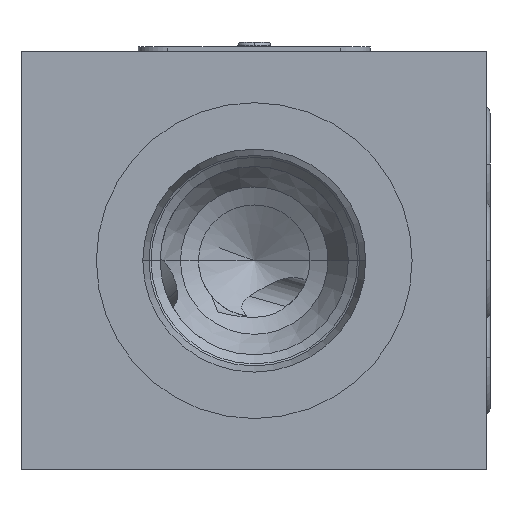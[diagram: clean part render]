
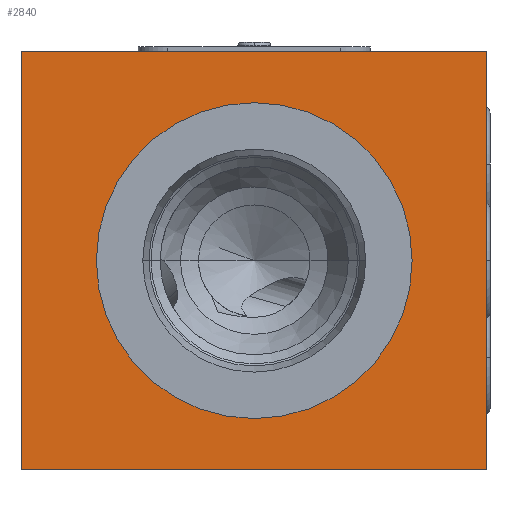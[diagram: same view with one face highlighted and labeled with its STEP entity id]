
A CAD part, left-side view. The second image highlights one B-rep face of the part: STEP entity #2840.
In plain terms, the highlighted planar face has unit normal (-1, 0, 0).
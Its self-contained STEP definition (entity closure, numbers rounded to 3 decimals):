
#55=DIRECTION('',(0.,0.,-1.));
#56=VECTOR('',#55,45.);
#57=CARTESIAN_POINT('',(0.,0.,0.));
#58=LINE('',#57,#56);
#62=DIRECTION('',(0.,1.,0.));
#63=VECTOR('',#62,50.);
#64=CARTESIAN_POINT('',(0.,0.,-45.));
#65=LINE('',#64,#63);
#69=DIRECTION('',(0.,0.,1.));
#70=VECTOR('',#69,45.);
#71=CARTESIAN_POINT('',(0.,50.,-45.));
#72=LINE('',#71,#70);
#76=DIRECTION('',(0.,-1.,0.));
#77=VECTOR('',#76,50.);
#78=CARTESIAN_POINT('',(0.,50.,0.));
#79=LINE('',#78,#77);
#83=CARTESIAN_POINT('',(0.,25.,-22.5));
#84=DIRECTION('',(1.,0.,0.));
#85=DIRECTION('',(0.,-1.,0.));
#86=AXIS2_PLACEMENT_3D('',#83,#84,#85);
#91=CARTESIAN_POINT('',(0.,25.,-22.5));
#92=DIRECTION('',(1.,0.,0.));
#93=DIRECTION('',(0.,1.,0.));
#94=AXIS2_PLACEMENT_3D('',#91,#92,#93);
#2550=CARTESIAN_POINT('',(0.,0.,0.));
#2551=CARTESIAN_POINT('',(0.,0.,-45.));
#2552=VERTEX_POINT('',#2550);
#2553=VERTEX_POINT('',#2551);
#2554=CARTESIAN_POINT('',(0.,50.,-45.));
#2555=VERTEX_POINT('',#2554);
#2556=CARTESIAN_POINT('',(0.,50.,0.));
#2557=VERTEX_POINT('',#2556);
#2696=CARTESIAN_POINT('',(0.,8.,-22.5));
#2697=VERTEX_POINT('',#2696);
#2698=CARTESIAN_POINT('',(0.,42.,-22.5));
#2699=VERTEX_POINT('',#2698);
#2819=CARTESIAN_POINT('',(0.,0.,0.));
#2820=DIRECTION('',(1.,0.,0.));
#2821=DIRECTION('',(0.,0.,-1.));
#2822=AXIS2_PLACEMENT_3D('',#2819,#2820,#2821);
#2823=PLANE('',#2822);
#2825=ORIENTED_EDGE('',*,*,#2824,.T.);
#2827=ORIENTED_EDGE('',*,*,#2826,.T.);
#2829=ORIENTED_EDGE('',*,*,#2828,.T.);
#2831=ORIENTED_EDGE('',*,*,#2830,.T.);
#2832=EDGE_LOOP('',(#2825,#2827,#2829,#2831));
#2833=FACE_OUTER_BOUND('',#2832,.F.);
#2835=ORIENTED_EDGE('',*,*,#2834,.F.);
#2837=ORIENTED_EDGE('',*,*,#2836,.F.);
#2838=EDGE_LOOP('',(#2835,#2837));
#2839=FACE_BOUND('',#2838,.F.);
#87=CIRCLE('',#86,17.);
#95=CIRCLE('',#94,17.);
#2824=EDGE_CURVE('',#2552,#2553,#58,.T.);
#2826=EDGE_CURVE('',#2553,#2555,#65,.T.);
#2828=EDGE_CURVE('',#2555,#2557,#72,.T.);
#2830=EDGE_CURVE('',#2557,#2552,#79,.T.);
#2834=EDGE_CURVE('',#2697,#2699,#87,.T.);
#2836=EDGE_CURVE('',#2699,#2697,#95,.T.);
#2840=ADVANCED_FACE('',(#2833,#2839),#2823,.F.);
